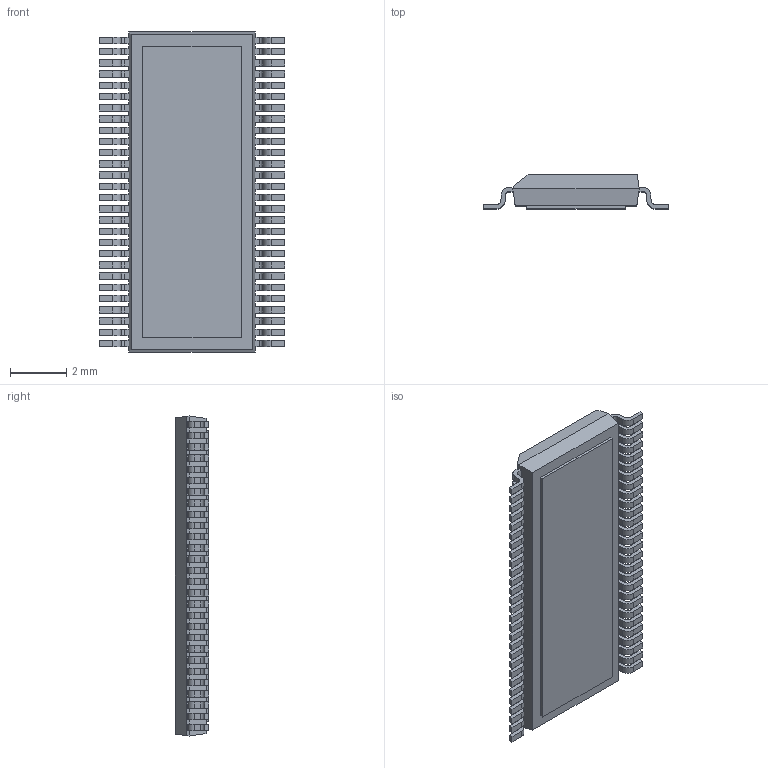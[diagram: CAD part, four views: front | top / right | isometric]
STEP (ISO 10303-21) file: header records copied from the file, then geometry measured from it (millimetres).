
FILE_DESCRIPTION (( 'STEP AP214' ), '1' );
FILE_NAME ('TSSOP40P640X120_HS-56_MO-194.AFT.STEP', '2014-10-29T10:13:35', ( 'Tester2' ), ( '' ), 'SwSTEP 2.0', 'SolidWorks 2012', '' );
FILE_SCHEMA (( 'AUTOMOTIVE_DESIGN' ));
Length unit declared in the file: millimetre
Products named in the file (1): TSSOP40P640X120_HS-56_MO-194.AFT
Bounding box: 6.6 x 1.2 x 11.4 mm (x, y, z)
Volume: 60.5 mm3; surface area: 195.5 mm2
Topology: 1 solids, 1 shells, 747 faces, 2225 edges, 1482 vertices
Faces by surface type: plane 521, cylinder 226
Entity records: 33109 total; most frequent: CARTESIAN_POINT 4455, ORIENTED_EDGE 4450, DIRECTION 4173, EDGE_CURVE 2225, VECTOR 1773, LINE 1773, VERTEX_POINT 1482, AXIS2_PLACEMENT_3D 1200
